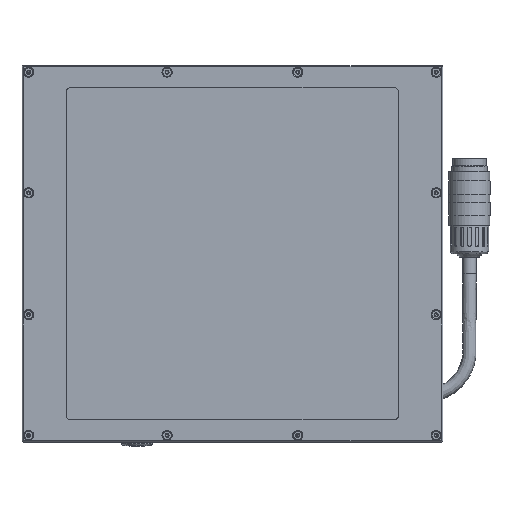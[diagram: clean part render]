
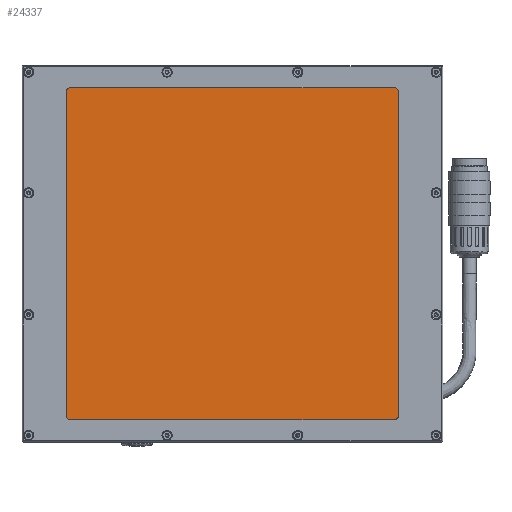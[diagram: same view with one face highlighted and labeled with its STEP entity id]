
A CAD part, top view. The second image highlights one B-rep face of the part: STEP entity #24337.
In plain terms, the highlighted planar face has unit normal (0, 0, 1).
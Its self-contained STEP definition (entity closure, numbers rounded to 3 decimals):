
#1897=CIRCLE('',#25970,2.);
#1898=CIRCLE('',#25972,2.);
#1899=CIRCLE('',#25975,2.);
#1900=CIRCLE('',#25978,2.);
#6175=ORIENTED_EDGE('',*,*,#8796,.F.);
#6176=ORIENTED_EDGE('',*,*,#8793,.T.);
#6177=ORIENTED_EDGE('',*,*,#8795,.F.);
#6178=ORIENTED_EDGE('',*,*,#8789,.T.);
#6179=ORIENTED_EDGE('',*,*,#8791,.F.);
#6180=ORIENTED_EDGE('',*,*,#8785,.T.);
#6181=ORIENTED_EDGE('',*,*,#8787,.F.);
#6182=ORIENTED_EDGE('',*,*,#8782,.T.);
#8782=EDGE_CURVE('',#10511,#10510,#1897,.F.);
#8785=EDGE_CURVE('',#10513,#10512,#1898,.F.);
#8787=EDGE_CURVE('',#10511,#10512,#11695,.T.);
#8789=EDGE_CURVE('',#10515,#10514,#1899,.F.);
#8791=EDGE_CURVE('',#10513,#10514,#11698,.T.);
#8793=EDGE_CURVE('',#10517,#10516,#1900,.F.);
#8795=EDGE_CURVE('',#10515,#10516,#11701,.T.);
#8796=EDGE_CURVE('',#10517,#10510,#11702,.T.);
#10510=VERTEX_POINT('',#42424);
#10511=VERTEX_POINT('',#42426);
#10512=VERTEX_POINT('',#42430);
#10513=VERTEX_POINT('',#42432);
#10514=VERTEX_POINT('',#42438);
#10515=VERTEX_POINT('',#42440);
#10516=VERTEX_POINT('',#42446);
#10517=VERTEX_POINT('',#42448);
#11695=LINE('',#42435,#12800);
#11698=LINE('',#42443,#12803);
#11701=LINE('',#42451,#12806);
#11702=LINE('',#42453,#12807);
#12800=VECTOR('',#30113,1000.);
#12803=VECTOR('',#30122,1000.);
#12806=VECTOR('',#30131,1000.);
#12807=VECTOR('',#30134,1000.);
#14061=EDGE_LOOP('',(#6175,#6176,#6177,#6178,#6179,#6180,#6181,#6182));
#15448=FACE_BOUND('',#14061,.T.);
#16073=PLANE('',#25999);
#24337=ADVANCED_FACE('',(#15448),#16073,.T.);
#25970=AXIS2_PLACEMENT_3D('',#42425,#30102,#30103);
#25972=AXIS2_PLACEMENT_3D('',#42431,#30108,#30109);
#25975=AXIS2_PLACEMENT_3D('',#42439,#30117,#30118);
#25978=AXIS2_PLACEMENT_3D('',#42447,#30126,#30127);
#25999=AXIS2_PLACEMENT_3D('',#42504,#30187,#30188);
#30102=DIRECTION('',(0.,0.,-1.));
#30103=DIRECTION('',(1.,0.,0.));
#30108=DIRECTION('',(0.,0.,-1.));
#30109=DIRECTION('',(1.,0.,0.));
#30113=DIRECTION('',(0.,1.,0.));
#30117=DIRECTION('',(0.,0.,-1.));
#30118=DIRECTION('',(1.,0.,0.));
#30122=DIRECTION('',(1.,0.,0.));
#30126=DIRECTION('',(0.,0.,-1.));
#30127=DIRECTION('',(1.,0.,0.));
#30131=DIRECTION('',(0.,-1.,0.));
#30134=DIRECTION('',(-1.,0.,0.));
#30187=DIRECTION('',(0.,0.,1.));
#30188=DIRECTION('',(1.,0.,0.));
#42424=CARTESIAN_POINT('',(-73.5,-75.5,11.05));
#42425=CARTESIAN_POINT('',(-73.5,-73.5,11.05));
#42426=CARTESIAN_POINT('',(-75.5,-73.5,11.05));
#42430=CARTESIAN_POINT('',(-75.5,73.5,11.05));
#42431=CARTESIAN_POINT('',(-73.5,73.5,11.05));
#42432=CARTESIAN_POINT('',(-73.5,75.5,11.05));
#42435=CARTESIAN_POINT('',(-75.5,-75.5,11.05));
#42438=CARTESIAN_POINT('',(73.5,75.5,11.05));
#42439=CARTESIAN_POINT('',(73.5,73.5,11.05));
#42440=CARTESIAN_POINT('',(75.5,73.5,11.05));
#42443=CARTESIAN_POINT('',(-75.5,75.5,11.05));
#42446=CARTESIAN_POINT('',(75.5,-73.5,11.05));
#42447=CARTESIAN_POINT('',(73.5,-73.5,11.05));
#42448=CARTESIAN_POINT('',(73.5,-75.5,11.05));
#42451=CARTESIAN_POINT('',(75.5,75.5,11.05));
#42453=CARTESIAN_POINT('',(75.5,-75.5,11.05));
#42504=CARTESIAN_POINT('',(0.,0.,
11.05));
